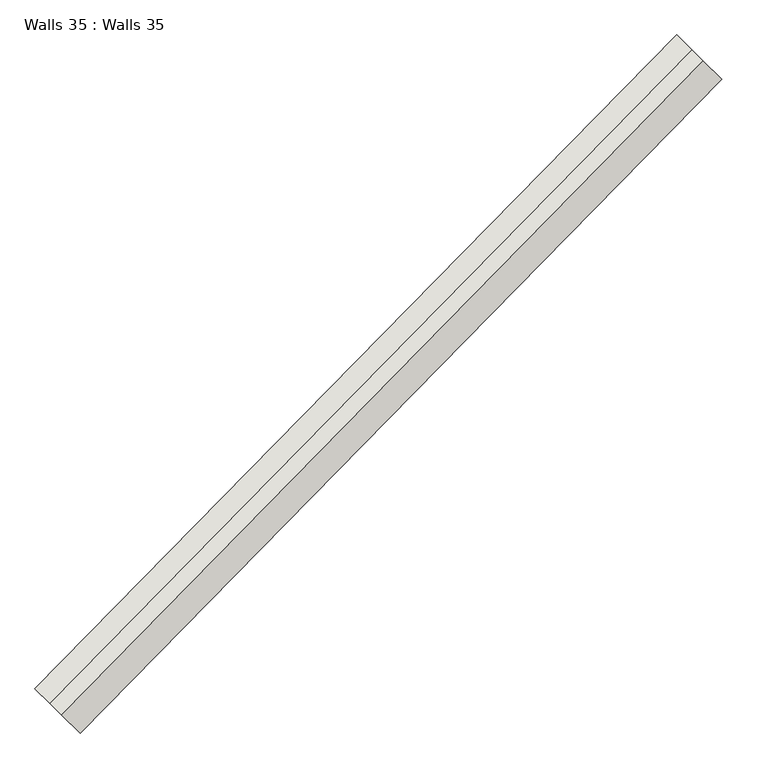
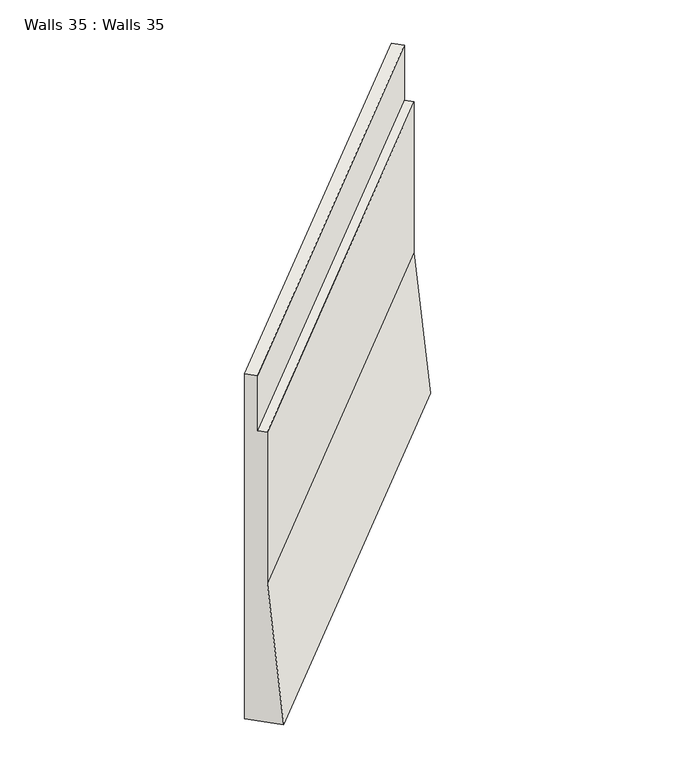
"""IFC4 building model written with IfcOpenShell, lengths in millimetres: wall geometry, Walls 35 : Walls 35."""

from ifc_helpers import new_model, si_unit, origin, place, context, project, spatial, faceted_brep, source, transform, mapped, element, save


def walls_35_walls_35_d924f613(model_context):
    return source(origin(), model_context, "Body", "Brep", [
        faceted_brep([(-178234.9635259, -337828.9363793, 636230.0), (-178413.3993619, -337653.8309549, 638730.0), (-178413.3993619, -337653.8309549, 641470.0), (-178520.4595524, -337548.7689868, 641470.0), (-178520.4595524, -337548.7689868, 642470.0), (-178663.2064731, -337408.6863627, 642470.0), (-178663.2064731, -337408.6863627, 636230.0), (-172141.3560479, -331619.4317449, 636320.0), (-172569.5989951, -331199.1817283, 636320.0), (-172569.5989951, -331199.1817283, 642540.0), (-172426.8520744, -331339.2643524, 642540.0), (-172426.8520744, -331339.2643524, 641540.0), (-172319.7918839, -331444.3263205, 641540.0), (-172319.7918839, -331444.3263205, 638820.0)], [[[0, 1, 2, 3, 4, 5, 6]], [[7, 8, 9, 10, 11, 12, 13]], [[7, 13, 1, 0]], [[13, 12, 2, 1]], [[12, 11, 3, 2]], [[11, 10, 4, 3]], [[10, 9, 5, 4]], [[9, 8, 6, 5]], [[8, 7, 0, 6]]]),
    ])


if __name__ == "__main__":
    model = new_model("IFC4")
    model_context = context("Model", 3, world=origin())
    ifc_project = project(units=[si_unit("LENGTHUNIT", "METRE", prefix="MILLI")], contexts=[model_context])
    site = spatial("IfcSite", under=ifc_project)
    building = spatial("IfcBuilding", under=site)
    placement = place(None, origin())
    walls_35_walls_35_shape = walls_35_walls_35_d924f613(model_context)
    element("IfcWall", 1, ObjectType="Walls 35 : Walls 35", at=placement, inside=building, context=model_context, shape_type="MappedRepresentation", body=[
        mapped(walls_35_walls_35_shape, transform((0.0, 0.0, 0.0), x_axis=(1.0, 0.0, 0.0), y_axis=(0.0, 1.0, 0.0), z_axis=(0.0, 0.0, 1.0))),
    ])
    save(model, "model.ifc")
